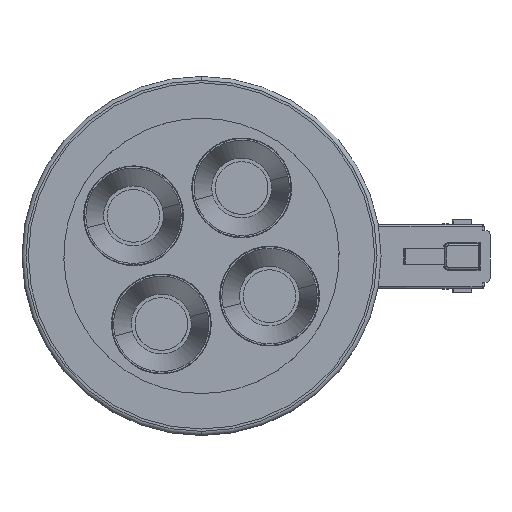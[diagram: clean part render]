
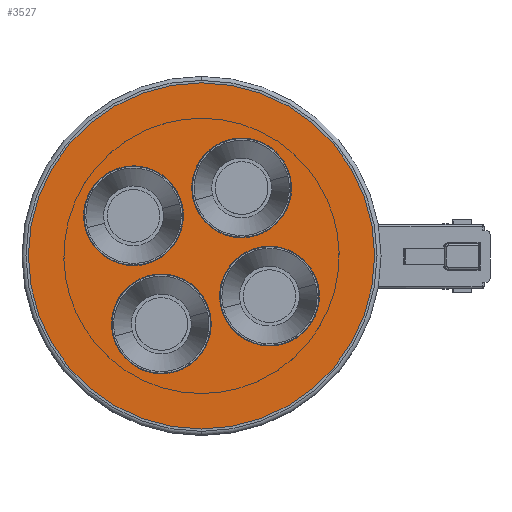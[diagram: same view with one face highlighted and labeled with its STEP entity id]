
A CAD part, top view. The second image highlights one B-rep face of the part: STEP entity #3527.
In plain terms, the highlighted planar face has unit normal (0, 0, 1).
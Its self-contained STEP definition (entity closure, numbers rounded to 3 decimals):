
#535 = CARTESIAN_POINT ( 'NONE',  ( 14.356, 0., 95.056 ) ) ;
#701 = CARTESIAN_POINT ( 'NONE',  ( 24.42, 17.051, 95.056 ) ) ;
#2631 = CARTESIAN_POINT ( 'NONE',  ( -2.694, 10.064, 95.056 ) ) ;
#3527 = ADVANCED_FACE ( 'NONE', ( #98504, #74574, #105433, #81603, #80182 ), #83247, .T. ) ;
#5397 = CARTESIAN_POINT ( 'NONE',  ( 14.356, 43.4, 95.056 ) ) ;
#6355 = VERTEX_POINT ( 'NONE', #68900 ) ;
#7760 = EDGE_CURVE ( 'NONE', #84939, #45727, #45441, .T. ) ;
#8114 = DIRECTION ( 'NONE',  ( 0., 0., 1. ) ) ;
#10202 = EDGE_CURVE ( 'NONE', #103405, #42035, #51048, .T. ) ;
#12467 = ORIENTED_EDGE ( 'NONE', *, *, #7760, .F. ) ;
#12754 = DIRECTION ( 'NONE',  ( 0., 0., 1. ) ) ;
#13228 = CIRCLE ( 'NONE', #45599, 12.4 ) ;
#13795 = VERTEX_POINT ( 'NONE', #18448 ) ;
#14007 = EDGE_LOOP ( 'NONE', ( #99248, #82441 ) ) ;
#14268 = DIRECTION ( 'NONE',  ( 0., 0., 1. ) ) ;
#15936 = DIRECTION ( 'NONE',  ( 0., -1., 0. ) ) ;
#16467 = CARTESIAN_POINT ( 'NONE',  ( 14.356, 0., 95.056 ) ) ;
#16725 = CARTESIAN_POINT ( 'NONE',  ( 24.42, 4.651, 95.056 ) ) ;
#18448 = CARTESIAN_POINT ( 'NONE',  ( 4.293, -4.651, 95.056 ) ) ;
#20316 = ORIENTED_EDGE ( 'NONE', *, *, #41954, .T. ) ;
#23631 = DIRECTION ( 'NONE',  ( 0., -1., 0. ) ) ;
#24354 = DIRECTION ( 'NONE',  ( 0., 0., 1. ) ) ;
#24464 = DIRECTION ( 'NONE',  ( 0., -1., 0. ) ) ;
#24774 = DIRECTION ( 'NONE',  ( 0., 0., 1. ) ) ;
#24965 = VERTEX_POINT ( 'NONE', #77671 ) ;
#25273 = AXIS2_PLACEMENT_3D ( 'NONE', #37579, #14268, #95282 ) ;
#26423 = CIRCLE ( 'NONE', #62768, 12.4 ) ;
#27413 = CARTESIAN_POINT ( 'NONE',  ( 31.407, -10.064, 95.056 ) ) ;
#29107 = CARTESIAN_POINT ( 'NONE',  ( -2.694, 22.464, 95.056 ) ) ;
#31754 = CIRCLE ( 'NONE', #67245, 43.4 ) ;
#33089 = DIRECTION ( 'NONE',  ( 0., 0., 1. ) ) ;
#36082 = VERTEX_POINT ( 'NONE', #55563 ) ;
#36181 = DIRECTION ( 'NONE',  ( 0., -1., 0. ) ) ;
#37579 = CARTESIAN_POINT ( 'NONE',  ( 14.356, 0., 95.056 ) ) ;
#37608 = EDGE_CURVE ( 'NONE', #13795, #6355, #66641, .T. ) ;
#38305 = DIRECTION ( 'NONE',  ( 0., -1., 0. ) ) ;
#38560 = AXIS2_PLACEMENT_3D ( 'NONE', #69698, #8114, #15936 ) ;
#38707 = EDGE_LOOP ( 'NONE', ( #44696, #78739 ) ) ;
#40072 = CARTESIAN_POINT ( 'NONE',  ( 31.407, -10.064, 95.056 ) ) ;
#40378 = CARTESIAN_POINT ( 'NONE',  ( 31.407, -22.464, 95.056 ) ) ;
#41954 = EDGE_CURVE ( 'NONE', #36082, #50864, #80173, .T. ) ;
#42035 = VERTEX_POINT ( 'NONE', #64032 ) ;
#44696 = ORIENTED_EDGE ( 'NONE', *, *, #63738, .F. ) ;
#44793 = CARTESIAN_POINT ( 'NONE',  ( 24.42, 29.451, 95.056 ) ) ;
#45441 = CIRCLE ( 'NONE', #89105, 12.4 ) ;
#45484 = ORIENTED_EDGE ( 'NONE', *, *, #86691, .F. ) ;
#45599 = AXIS2_PLACEMENT_3D ( 'NONE', #94882, #33089, #24464 ) ;
#45727 = VERTEX_POINT ( 'NONE', #44793 ) ;
#46849 = EDGE_LOOP ( 'NONE', ( #12467, #60139 ) ) ;
#47246 = DIRECTION ( 'NONE',  ( 0., 0., 1. ) ) ;
#50750 = CIRCLE ( 'NONE', #64020, 12.4 ) ;
#50864 = VERTEX_POINT ( 'NONE', #5397 ) ;
#51048 = CIRCLE ( 'NONE', #100196, 12.4 ) ;
#52952 = EDGE_LOOP ( 'NONE', ( #45484, #116007 ) ) ;
#55563 = CARTESIAN_POINT ( 'NONE',  ( 14.356, -43.4, 95.056 ) ) ;
#60139 = ORIENTED_EDGE ( 'NONE', *, *, #70020, .F. ) ;
#60740 = VERTEX_POINT ( 'NONE', #40378 ) ;
#62326 = DIRECTION ( 'NONE',  ( 0., 0., 1. ) ) ;
#62768 = AXIS2_PLACEMENT_3D ( 'NONE', #92193, #12754, #66090 ) ;
#62785 = AXIS2_PLACEMENT_3D ( 'NONE', #40072, #47246, #110048 ) ;
#63738 = EDGE_CURVE ( 'NONE', #60740, #24965, #50750, .T. ) ;
#64020 = AXIS2_PLACEMENT_3D ( 'NONE', #27413, #62326, #71796 ) ;
#64032 = CARTESIAN_POINT ( 'NONE',  ( -2.694, -2.336, 95.056 ) ) ;
#65297 = AXIS2_PLACEMENT_3D ( 'NONE', #535, #108481, #36181 ) ;
#66090 = DIRECTION ( 'NONE',  ( 0., -1., 0. ) ) ;
#66641 = CIRCLE ( 'NONE', #100241, 12.4 ) ;
#67245 = AXIS2_PLACEMENT_3D ( 'NONE', #16467, #24354, #105668 ) ;
#68900 = CARTESIAN_POINT ( 'NONE',  ( 4.293, -29.451, 95.056 ) ) ;
#69698 = CARTESIAN_POINT ( 'NONE',  ( 24.42, 17.051, 95.056 ) ) ;
#70020 = EDGE_CURVE ( 'NONE', #45727, #84939, #82619, .T. ) ;
#71796 = DIRECTION ( 'NONE',  ( 0., -1., 0. ) ) ;
#73295 = DIRECTION ( 'NONE',  ( 0., 0., 1. ) ) ;
#74574 = FACE_BOUND ( 'NONE', #52952, .T. ) ;
#75799 = EDGE_CURVE ( 'NONE', #24965, #60740, #92974, .T. ) ;
#77671 = CARTESIAN_POINT ( 'NONE',  ( 31.407, 2.336, 95.056 ) ) ;
#78739 = ORIENTED_EDGE ( 'NONE', *, *, #75799, .F. ) ;
#80173 = CIRCLE ( 'NONE', #65297, 43.4 ) ;
#80182 = FACE_BOUND ( 'NONE', #14007, .T. ) ;
#81603 = FACE_BOUND ( 'NONE', #46849, .T. ) ;
#81880 = EDGE_CURVE ( 'NONE', #50864, #36082, #31754, .T. ) ;
#82040 = DIRECTION ( 'NONE',  ( 0., 0., 1. ) ) ;
#82381 = DIRECTION ( 'NONE',  ( 0., -1., 0. ) ) ;
#82441 = ORIENTED_EDGE ( 'NONE', *, *, #10202, .F. ) ;
#82607 = ORIENTED_EDGE ( 'NONE', *, *, #81880, .T. ) ;
#82619 = CIRCLE ( 'NONE', #38560, 12.4 ) ;
#83247 = PLANE ( 'NONE',  #25273 ) ;
#84939 = VERTEX_POINT ( 'NONE', #16725 ) ;
#86691 = EDGE_CURVE ( 'NONE', #6355, #13795, #26423, .T. ) ;
#88381 = EDGE_LOOP ( 'NONE', ( #82607, #20316 ) ) ;
#89105 = AXIS2_PLACEMENT_3D ( 'NONE', #701, #82040, #38305 ) ;
#92193 = CARTESIAN_POINT ( 'NONE',  ( 4.293, -17.051, 95.056 ) ) ;
#92974 = CIRCLE ( 'NONE', #62785, 12.4 ) ;
#94882 = CARTESIAN_POINT ( 'NONE',  ( -2.694, 10.064, 95.056 ) ) ;
#95282 = DIRECTION ( 'NONE',  ( 0., -1., 0. ) ) ;
#98504 = FACE_OUTER_BOUND ( 'NONE', #88381, .T. ) ;
#99248 = ORIENTED_EDGE ( 'NONE', *, *, #103072, .F. ) ;
#100196 = AXIS2_PLACEMENT_3D ( 'NONE', #2631, #73295, #82381 ) ;
#100241 = AXIS2_PLACEMENT_3D ( 'NONE', #114330, #24774, #23631 ) ;
#103072 = EDGE_CURVE ( 'NONE', #42035, #103405, #13228, .T. ) ;
#103405 = VERTEX_POINT ( 'NONE', #29107 ) ;
#105433 = FACE_BOUND ( 'NONE', #38707, .T. ) ;
#105668 = DIRECTION ( 'NONE',  ( 0., -1., 0. ) ) ;
#108481 = DIRECTION ( 'NONE',  ( 0., 0., 1. ) ) ;
#110048 = DIRECTION ( 'NONE',  ( 0., -1., 0. ) ) ;
#114330 = CARTESIAN_POINT ( 'NONE',  ( 4.293, -17.051, 95.056 ) ) ;
#116007 = ORIENTED_EDGE ( 'NONE', *, *, #37608, .F. ) ;
